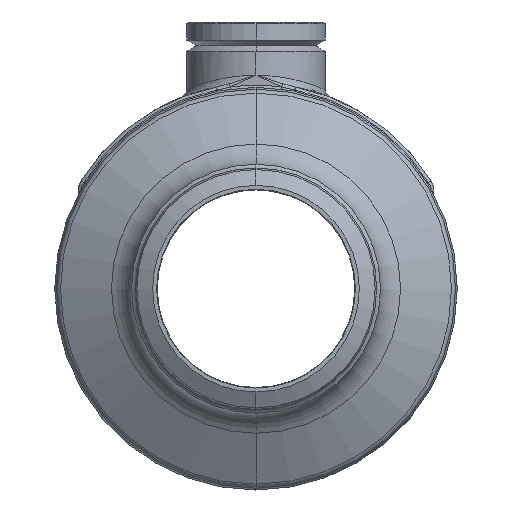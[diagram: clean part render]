
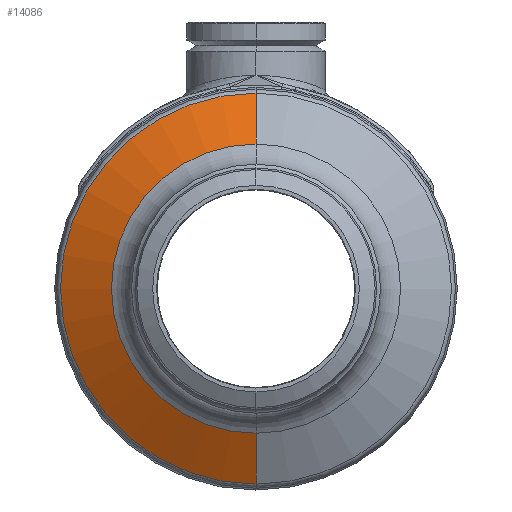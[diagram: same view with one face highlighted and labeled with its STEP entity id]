
A CAD part, left-side view. The second image highlights one B-rep face of the part: STEP entity #14086.
In plain terms, the highlighted conical face has half-angle 60.614 degrees and reference radius 43.037 mm.
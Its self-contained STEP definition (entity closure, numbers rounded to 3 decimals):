
#3575=CARTESIAN_POINT('',(-38.874,0.,0.));
#3576=DIRECTION('',(1.,0.,0.));
#3577=DIRECTION('',(0.,0.,-1.));
#3578=AXIS2_PLACEMENT_3D('',#3575,#3576,#3577);
#3580=DIRECTION('',(0.491,0.,0.871));
#3581=VECTOR('',#3580,14.792);
#3582=CARTESIAN_POINT('',(-46.132,0.,36.593));
#3583=LINE('',#3582,#3581);
#3584=CARTESIAN_POINT('',(-46.132,0.,0.));
#3585=DIRECTION('',(-1.,0.,0.));
#3586=DIRECTION('',(0.,0.,1.));
#3587=AXIS2_PLACEMENT_3D('',#3584,#3585,#3586);
#3589=DIRECTION('',(0.491,0.,-0.871));
#3590=VECTOR('',#3589,14.792);
#3591=CARTESIAN_POINT('',(-46.132,0.,-36.593));
#3592=LINE('',#3591,#3590);
#5490=CARTESIAN_POINT('',(-38.874,0.,49.481));
#5491=CARTESIAN_POINT('',(-38.874,0.,-49.481));
#5492=VERTEX_POINT('',#5490);
#5493=VERTEX_POINT('',#5491);
#5494=CARTESIAN_POINT('',(-46.132,0.,36.593));
#5495=VERTEX_POINT('',#5494);
#5496=CARTESIAN_POINT('',(-46.132,0.,-36.593));
#5497=VERTEX_POINT('',#5496);
#14072=CARTESIAN_POINT('',(-42.503,0.,0.));
#14073=DIRECTION('',(1.,0.,0.));
#14074=DIRECTION('',(0.,0.,1.));
#14075=AXIS2_PLACEMENT_3D('',#14072,#14073,#14074);
#14076=CONICAL_SURFACE('',#14075,43.037,60.614);
#14077=ORIENTED_EDGE('',*,*,#14066,.T.);
#14079=ORIENTED_EDGE('',*,*,#14078,.F.);
#14081=ORIENTED_EDGE('',*,*,#14080,.T.);
#14083=ORIENTED_EDGE('',*,*,#14082,.T.);
#14084=EDGE_LOOP('',(#14077,#14079,#14081,#14083));
#14085=FACE_OUTER_BOUND('',#14084,.F.);
#14086=ADVANCED_FACE('',(#14085),#14076,.T.);
#3579=CIRCLE('',#3578,49.481);
#3588=CIRCLE('',#3587,36.593);
#14066=EDGE_CURVE('',#5493,#5492,#3579,.T.);
#14078=EDGE_CURVE('',#5495,#5492,#3583,.T.);
#14080=EDGE_CURVE('',#5495,#5497,#3588,.T.);
#14082=EDGE_CURVE('',#5497,#5493,#3592,.T.);
